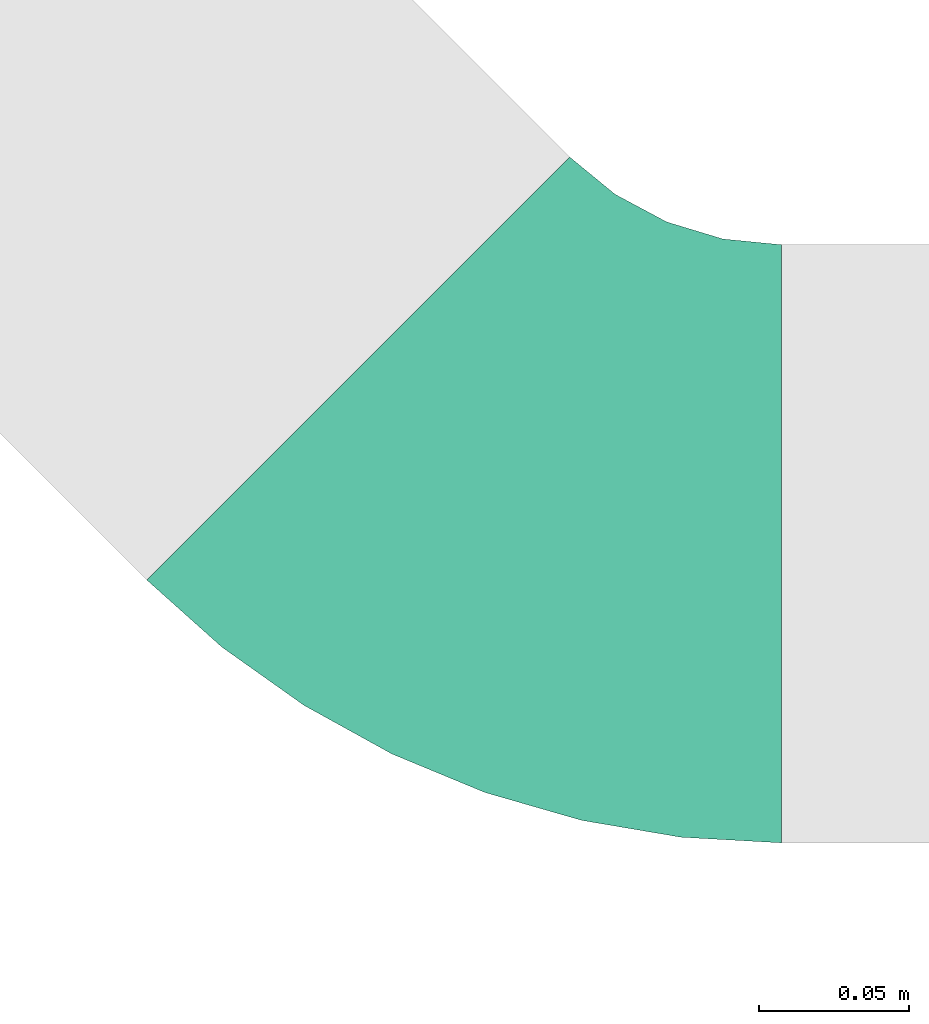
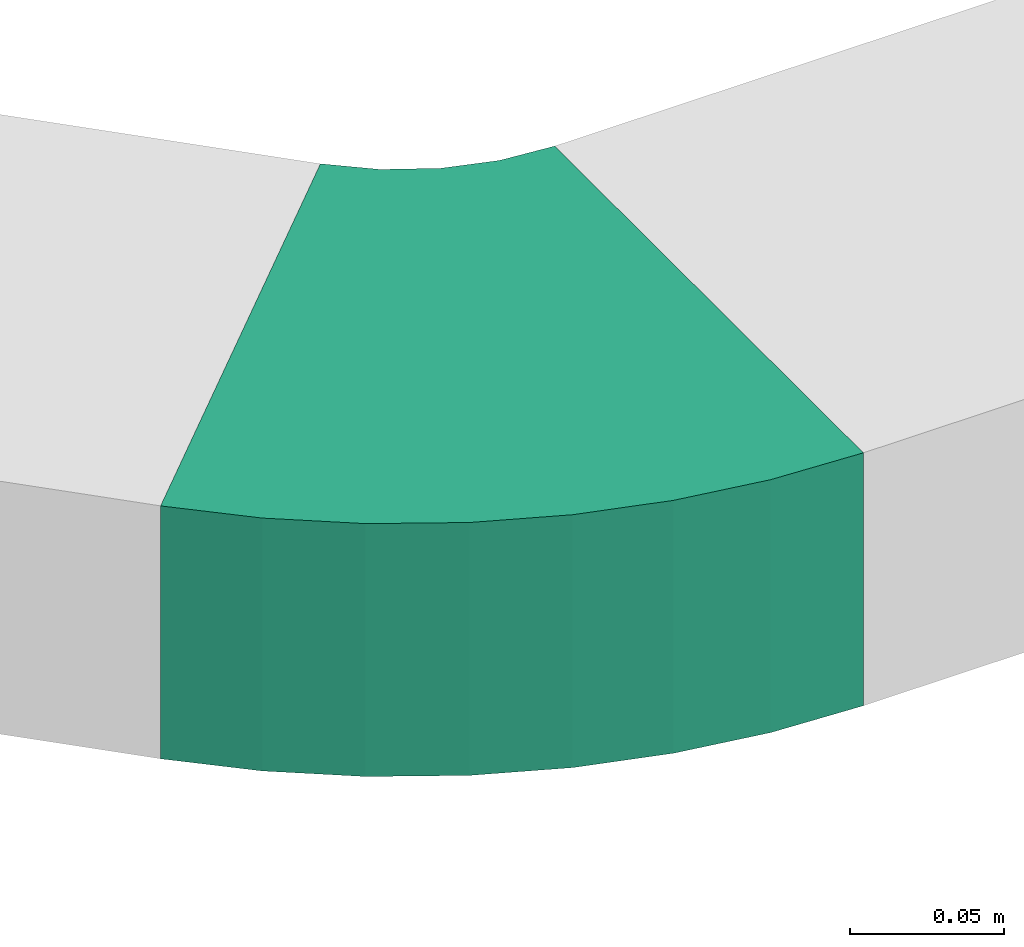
# One storey, part 8 of 15: 1 flow fitting.
"""IFC2X3 building model written with IfcOpenShell, lengths in millimetres."""

from ifc_helpers import new_model, entity, si_unit, converted_unit, derived_unit, direction, frame, frame_2d, origin, place, context, subcontext, project, spatial, polyline, circle_curve, parameter, trimmed, segment, composite_curve, outline, extrude, source, transform, mapped, material, type_object, type_shapes, element, save


model = new_model("IFC2X3")

# Units and contexts
model_context = context("Model", 3, precision=0.01, world=origin(), true_north=direction((6.123233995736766e-17, 1.0)))
body_context = subcontext(model_context, "Body", "Model", "MODEL_VIEW")
ifc_project = project(units=[si_unit("LENGTHUNIT", "METRE", prefix="MILLI"), converted_unit("PLANEANGLEUNIT", "DEGREE", entity("IfcPlaneAngleMeasure", 0.017453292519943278), si_unit("PLANEANGLEUNIT", "RADIAN"), dimensions=[0, 0, 0, 0, 0, 0, 0]), si_unit("AREAUNIT", "SQUARE_METRE"), derived_unit("THERMALTRANSMITTANCEUNIT", [(si_unit("MASSUNIT", "GRAM", prefix="KILO"), 1), (si_unit("THERMODYNAMICTEMPERATUREUNIT", "KELVIN"), -1), (si_unit("TIMEUNIT", "SECOND"), -3)])], contexts=[model_context])

# Site, building, storey
site_placement = place(None, origin())
site = spatial("IfcSite", under=ifc_project, at=site_placement, Name="Default", CompositionType="ELEMENT")
building_placement = place(site_placement, origin())
building = spatial("IfcBuilding", under=site, at=building_placement, Name="Praça Pedro II, 1301 - Centro (Sul), Teresina - PI, 64001-100", CompositionType="ELEMENT")
storey_placement = place(building_placement, frame((0.0, 0.0, 3020.0)))
storey = spatial("IfcBuildingStorey", under=building, at=storey_placement, Name="1PAV", CompositionType="ELEMENT", Elevation=3020.0)

# Flow fitting
ifc_material = material(Name="<Unnamed>")
duct_fitting_type = type_object("IfcDuctFittingType", Name="BTS vanes:1 Splitter Vanes", PredefinedType="NOTDEFINED", material=ifc_material)
shared_shape = source(origin(), body_context, "Body", "SweptSolid", [
    extrude(outline(composite_curve([segment(polyline([(-129.28932188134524, -70.7106781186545), (70.71067811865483, -70.71067811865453)]), True, "CONTINUOUS"), segment(trimmed(circle_curve(frame_2d((170.7106781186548, -70.71067811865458), x_axis=(-0.7071067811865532, 0.7071067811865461)), 99.99999999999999), [parameter(0.0)], [parameter(44.99999999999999)], True, "PARAMETER"), False, "CONTINUOUS"), segment(polyline([(100.0, 0.0), (-41.42135623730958, 141.42135623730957)]), True, "CONTINUOUS"), segment(trimmed(circle_curve(frame_2d((170.7106781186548, -70.71067811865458), x_axis=(-0.7071067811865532, 0.7071067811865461)), 300.0), [parameter(0.0)], [parameter(44.99999999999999)], True, "PARAMETER"), True, "CONTINUOUS")], self_intersect=False)), frame((-12.132034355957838, 29.289321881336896, -50.0), z_axis=(0.0, 0.0, 1.0), x_axis=(-0.7071067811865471, 0.7071067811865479, 0.0)), (0.0, 0.0, 1.0), 100.0),
    extrude(outline(composite_curve([segment(polyline([(-35.763414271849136, -41.86816467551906), (1.078690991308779, -41.86816467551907)]), True, "CONTINUOUS"), segment(trimmed(circle_curve(frame_2d((101.07869099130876, -41.86816467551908), x_axis=(-0.707106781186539, 0.7071067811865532)), 99.99999999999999), [parameter(0.0)], [parameter(44.99999999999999)], True, "PARAMETER"), False, "CONTINUOUS"), segment(polyline([(30.36801287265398, 28.842513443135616), (4.3167104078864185, 54.89381590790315)]), True, "CONTINUOUS"), segment(trimmed(circle_curve(frame_2d((101.07869099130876, -41.86816467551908), x_axis=(-0.707106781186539, 0.7071067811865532)), 136.84210526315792), [parameter(0.0)], [parameter(44.99999999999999)], True, "PARAMETER"), True, "CONTINUOUS")], self_intersect=False)), frame((-40.97454779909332, 98.92130900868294, -50.0), z_axis=(0.0, 0.0, 1.0), x_axis=(-0.7071067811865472, 0.7071067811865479, 0.0)), (0.0, 0.0, 1.0), 100.0),
])
type_shapes(duct_fitting_type, [shared_shape])
flow_fitting_placement = place(storey_placement, frame((37952.15622610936, -64901.478204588, 2711.0050506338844), z_axis=(0.0, 0.0, 1.0), x_axis=(0.7071067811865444, -0.7071067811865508, 0.0)))
element("IfcFlowFitting", 1, at=flow_fitting_placement, inside=storey, type_object=duct_fitting_type, material=ifc_material, Name="BTS vanes:1 Splitter Vanes", ObjectType="BTS vanes:1 Splitter Vanes", context=body_context, shape_type="MappedRepresentation", body=[
    mapped(shared_shape, transform((0.0, 0.0, 0.0), scale=1.0)),
])

save(model, "model.ifc")
